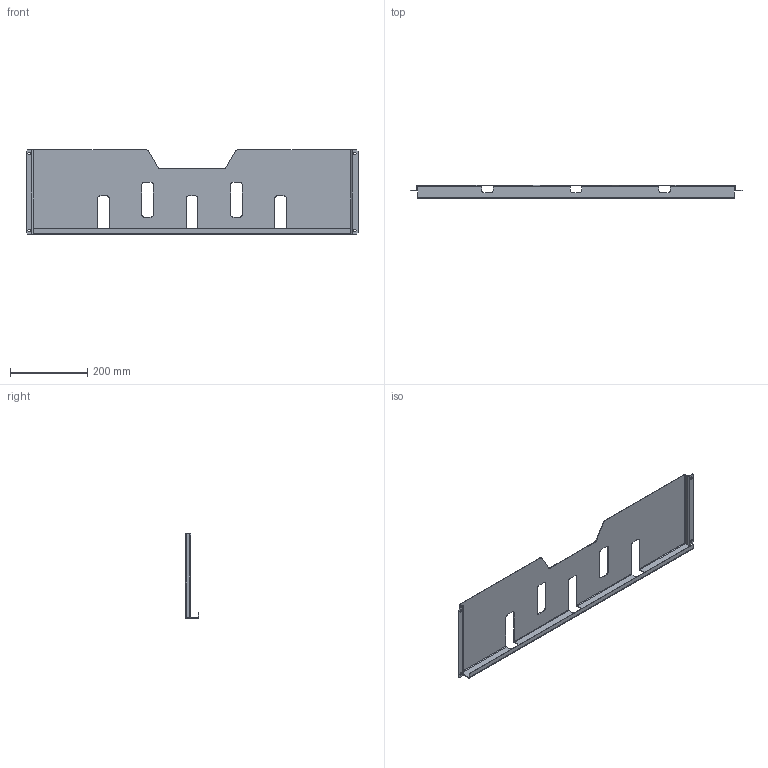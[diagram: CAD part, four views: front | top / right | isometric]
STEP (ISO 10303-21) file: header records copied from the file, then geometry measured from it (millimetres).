
FILE_DESCRIPTION (( 'STEP AP214' ), '1' );
FILE_NAME ('DP 100 M Êàðìàí äëÿ äîêóìåíòàöèè.STEP', '2025-08-11T10:11:22', ( '' ), ( '' ), 'SwSTEP 2.0', 'SolidWorks 2022', '' );
FILE_SCHEMA (( 'AUTOMOTIVE_DESIGN' ));
Length unit declared in the file: millimetre
Products named in the file (1): DP 100 M Карман для документации
Bounding box: 861.2 x 34 x 220 mm (x, y, z)
Volume: 286482.9 mm3; surface area: 414495 mm2
Topology: 1 solids, 1 shells, 122 faces, 330 edges, 204 vertices
Faces by surface type: plane 72, cylinder 50
Entity records: 3860 total; most frequent: DIRECTION 676, ORIENTED_EDGE 660, CARTESIAN_POINT 657, EDGE_CURVE 330, LINE 230, VECTOR 230, AXIS2_PLACEMENT_3D 223, VERTEX_POINT 204
